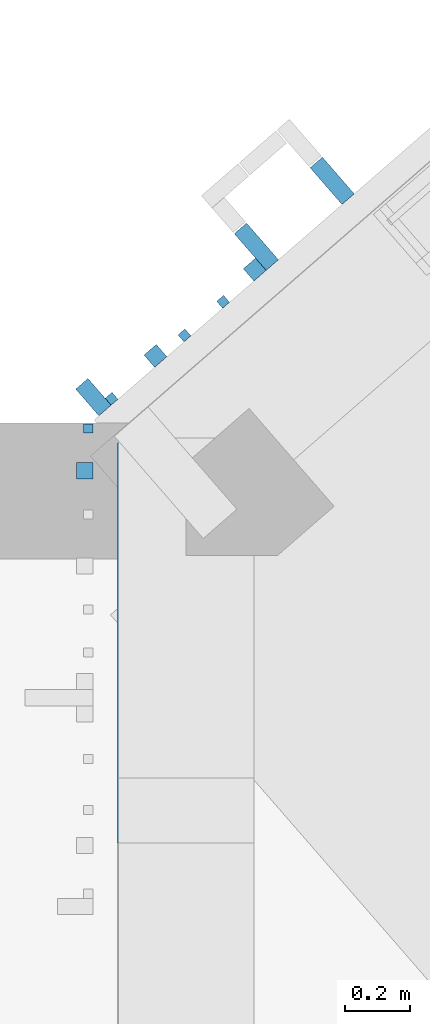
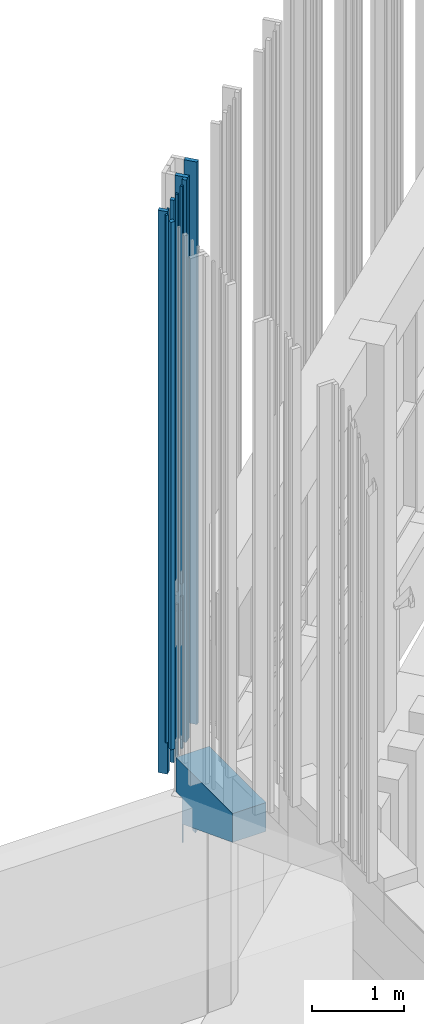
# One storey, part 131 of 390: 11 walls.
"""IFC2X3 building model written with IfcOpenShell, lengths in millimetres."""

import ifcopenshell
import ifcopenshell.guid

model = None  # the IFC model being written
_history = None  # IfcOwnerHistory: only IFC2X3 demands one
_inside = {}  # id of a spatial element -> (the spatial element, [elements in it])
_under = {}  # id of a project, library or spatial element -> (it, [spatial elements below it])
_declared = {}  # id of a project -> (the project, [libraries it declares])
_typed = {}  # id of a type object -> (the type object, [elements of that type])
_made_of = {}  # id of a material, layer set ... -> (it, [elements and type objects made of it])


def new_model(schema):
    """Start an empty IFC model of exactly this schema.

    Asked for "IFC4X3", IfcOpenShell would pick the latest addendum, in which some entities
    have other attributes; the version numbers below select the first issue.
    IFC2X3 requires an IfcOwnerHistory on every rooted entity: one is made here for all.
    """
    global model, _history
    if schema == "IFC4X3":
        model = ifcopenshell.file(schema_version=(4, 3, 0, 0))
    else:
        model = ifcopenshell.file(schema=schema)
    _inside.clear()
    _under.clear()
    _declared.clear()
    _typed.clear()
    _made_of.clear()
    _history = None
    if model.schema == "IFC2X3":
        org = make("IfcOrganization", Name="unknown")
        user = make(
            "IfcPersonAndOrganization",
            ThePerson=make("IfcPerson", FamilyName="unknown"),
            TheOrganization=org,
        )
        app = make(
            "IfcApplication",
            ApplicationDeveloper=org,
            Version="unknown",
            ApplicationFullName="unknown",
            ApplicationIdentifier="unknown",
        )
        _history = make(
            "IfcOwnerHistory",
            OwningUser=user,
            OwningApplication=app,
            ChangeAction="ADDED",
            CreationDate=0,
        )
    return model


def make(cls, **values):
    """One entity of the class cls with the attributes given. An attribute that is None is left unset."""
    return model.create_entity(
        cls, **{name: value for name, value in values.items() if value is not None}
    )


def entity(cls, *values):
    """Any entity or typed value of the class cls, its attributes in the order of the schema. None: left unset."""
    e = model.create_entity(cls)
    for i, value in enumerate(values):
        if value is not None:
            e[i] = value
    return e


def rooted(cls, **values):
    """An entity with a GlobalId (a new one), such as an element, a storey or a relation."""
    return make(cls, GlobalId=ifcopenshell.guid.new(), OwnerHistory=_history, **values)


def si_unit(unit_type, name, prefix=None):
    """IfcSIUnit, for example si_unit("LENGTHUNIT", "METRE", prefix="MILLI")."""
    return make("IfcSIUnit", UnitType=unit_type, Prefix=prefix, Name=name)


def converted_unit(unit_type, name, factor, base, dimensions=None, offset=None):
    """IfcConversionBasedUnit, such as the inch: factor (a typed value) times the base unit."""
    return make(
        "IfcConversionBasedUnit"
        if offset is None
        else "IfcConversionBasedUnitWithOffset",
        ConversionOffset=offset,
        Dimensions=None
        if dimensions is None
        else entity("IfcDimensionalExponents", *dimensions),
        UnitType=unit_type,
        Name=name,
        ConversionFactor=make(
            "IfcMeasureWithUnit", ValueComponent=factor, UnitComponent=base
        ),
    )


def derived_unit(unit_type, elements):
    """IfcDerivedUnit: a product of units, each with its exponent."""
    return make(
        "IfcDerivedUnit",
        Elements=[
            make("IfcDerivedUnitElement", Unit=unit, Exponent=power)
            for unit, power in elements
        ],
        UnitType=unit_type,
    )


def money_unit(currency):
    """IfcMonetaryUnit."""
    return make("IfcMonetaryUnit", Currency=currency)


def assignment(units):
    """IfcUnitAssignment: the units of a project."""
    return None if units is None else make("IfcUnitAssignment", Units=units)


def point(xyz):
    """IfcCartesianPoint."""
    return None if xyz is None else make("IfcCartesianPoint", Coordinates=xyz)


def direction(xyz):
    """IfcDirection."""
    return None if xyz is None else make("IfcDirection", DirectionRatios=xyz)


def frame(location, z_axis=None, x_axis=None):
    """IfcAxis2Placement3D, a coordinate frame: its origin and axes. An axis left out is left unset."""
    return make(
        "IfcAxis2Placement3D",
        Location=point(location),
        Axis=direction(z_axis),
        RefDirection=direction(x_axis),
    )


def origin_with_axes():
    """The frame at (0, 0, 0) with the z axis (0, 0, 1) and the x axis (1, 0, 0) written out."""
    return frame((0.0, 0.0, 0.0), z_axis=(0.0, 0.0, 1.0), x_axis=(1.0, 0.0, 0.0))


def place(relative_to, where):
    """IfcLocalPlacement: puts the frame where relative to a parent placement (None: the world)."""
    return make(
        "IfcLocalPlacement", PlacementRelTo=relative_to, RelativePlacement=where
    )


def context(
    kind, dimensions, precision=None, world=None, true_north=None, identifier=None
):
    """IfcGeometricRepresentationContext, for example the 3D "Model" context."""
    return make(
        "IfcGeometricRepresentationContext",
        ContextIdentifier=identifier,
        ContextType=kind,
        CoordinateSpaceDimension=dimensions,
        Precision=precision,
        WorldCoordinateSystem=world,
        TrueNorth=true_north,
    )


def subcontext(parent, identifier, kind, view, scale=None):
    """IfcGeometricRepresentationSubContext, for example "Body" below "Model"."""
    return make(
        "IfcGeometricRepresentationSubContext",
        ContextIdentifier=identifier,
        ContextType=kind,
        ParentContext=parent,
        TargetScale=scale,
        TargetView=view,
    )


def project(units=None, contexts=None):
    """IfcProject with its units and contexts."""
    return rooted(
        "IfcProject",
        Name="project",
        RepresentationContexts=contexts,
        UnitsInContext=assignment(units),
    )


def spatial(cls, under=None, at=None, **own):
    """A site, building, storey or space (cls), placed at a placement, below another one or the project."""
    s = rooted(cls, ObjectPlacement=at, **own)
    if under is not None:
        _under.setdefault(under.id(), (under, []))[1].append(s)
    return s


def faces_of(points, faces, orient=None, outer=None):
    """IfcFace entities. A face is a list of loops; a loop is a list of indices into points, from 0.

    orient and outer hold one flag for each loop. By default every Orientation is true, the
    first loop of a face is its IfcFaceOuterBound and the others are IfcFaceBound.
    """
    made = []
    for i, loops in enumerate(faces):
        bounds = []
        for j, loop in enumerate(loops):
            is_outer = j == 0 if outer is None else outer[i][j]
            bounds.append(
                make(
                    "IfcFaceOuterBound" if is_outer else "IfcFaceBound",
                    Bound=make("IfcPolyLoop", Polygon=[points[k] for k in loop]),
                    Orientation=True if orient is None else orient[i][j],
                )
            )
        made.append(make("IfcFace", Bounds=bounds))
    return made


def faceted_brep(points, faces, orient=None, outer=None, voids=None):
    """IfcFacetedBrep: a solid bounded by flat faces; with voids (closed shells), ...WithVoids."""
    shared = [point(p) for p in points]
    hull = make("IfcClosedShell", CfsFaces=faces_of(shared, faces, orient, outer))
    if voids is None:
        return make("IfcFacetedBrep", Outer=hull)
    return make(
        "IfcFacetedBrepWithVoids",
        Outer=hull,
        Voids=[
            make(cls, CfsFaces=faces_of(shared, fs, o, b)) for cls, fs, o, b in voids
        ],
    )


def shape(context_of_items, identifier, shape_type, items):
    """IfcShapeRepresentation: the items that make up one representation, for example the "Body"."""
    return make(
        "IfcShapeRepresentation",
        ContextOfItems=context_of_items,
        RepresentationIdentifier=identifier,
        RepresentationType=shape_type,
        Items=items,
    )


def material(Name=None, Category=None):
    """IfcMaterial."""
    return make("IfcMaterial", Name=Name, Category=Category)


def material_list(materials):
    """IfcMaterialList."""
    return make("IfcMaterialList", Materials=materials)


def made_of(thing, what):
    """Note that an element or type object is made of a material, layer set ...; save() writes the relation."""
    if what is not None:
        _made_of.setdefault(what.id(), (what, []))[1].append(thing)
    return thing


def type_object(cls, material=None, **own):
    """A type object (cls), such as IfcWallType, which elements share."""
    return made_of(rooted(cls, **own), material)


def element(
    cls,
    number,
    at=None,
    inside=None,
    cuts=None,
    type_object=None,
    material=None,
    context=None,
    identifier="Body",
    shape_type=None,
    held_by="IfcProductDefinitionShape",
    body=None,
    shapes=None,
    **own,
):
    """One element of the class cls, such as IfcWall. Its Tag is "e" and its number.

    at: its placement. inside: the storey or other place that contains it. cuts: it is an
    opening in that element (IfcRelVoidsElement). A single representation is given by context,
    identifier, shape_type and body (its items); several are given by shapes. held_by: the class
    of the entity that holds the representations. save() writes the other relations.
    """
    e = rooted(cls, Tag="e%d" % number, ObjectPlacement=at, **own)
    if body is not None:
        shapes = [shape(context, identifier, shape_type, body)]
    if shapes is not None:
        e.Representation = make(held_by, Representations=shapes)
    if inside is not None:
        _inside.setdefault(inside.id(), (inside, []))[1].append(e)
    if cuts is not None:
        rooted(
            "IfcRelVoidsElement", RelatingBuildingElement=cuts, RelatedOpeningElement=e
        )
    if type_object is not None:
        _typed.setdefault(type_object.id(), (type_object, []))[1].append(e)
    return made_of(e, material)


def aggregate(whole, parts):
    """IfcRelAggregates: a whole, such as a stair, and the parts it consists of."""
    return rooted("IfcRelAggregates", RelatingObject=whole, RelatedObjects=parts)


def save(model, path):
    """Write the relations noted so far, then the file.

    IfcRelAggregates (storeys below a building ...), IfcRelContainedInSpatialStructure (elements
    in a storey), IfcRelDefinesByType, IfcRelAssociatesMaterial and IfcRelDeclares: one each for
    every whole, place, type object, material and project.
    """
    for whole, parts in _under.values():
        aggregate(whole, parts)
    for where, things in _inside.values():
        rooted(
            "IfcRelContainedInSpatialStructure",
            RelatedElements=things,
            RelatingStructure=where,
        )
    for kind, things in _typed.values():
        rooted("IfcRelDefinesByType", RelatedObjects=things, RelatingType=kind)
    for what, things in _made_of.values():
        rooted("IfcRelAssociatesMaterial", RelatedObjects=things, RelatingMaterial=what)
    for by, libraries in _declared.values():
        rooted("IfcRelDeclares", RelatingContext=by, RelatedDefinitions=libraries)
    model.write(path)


model = new_model("IFC2X3")

# Units and contexts
model_context = context("Model", 3, precision=1e-05, world=origin_with_axes(), true_north=direction((0.0, 1.0)))
body_context = subcontext(model_context, "Body", "Model", "MODEL_VIEW")
ifc_project = project(units=[si_unit("LENGTHUNIT", "METRE", prefix="MILLI"), si_unit("AREAUNIT", "SQUARE_METRE"), si_unit("VOLUMEUNIT", "CUBIC_METRE"), converted_unit("PLANEANGLEUNIT", "DEGREE", entity("IfcPlaneAngleMeasure", 0.0174532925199), si_unit("PLANEANGLEUNIT", "RADIAN"), dimensions=[0, 0, 0, 0, 0, 0, 0]), si_unit("SOLIDANGLEUNIT", "STERADIAN"), money_unit("EUR"), converted_unit("TIMEUNIT", "Year", entity("IfcTimeMeasure", 31556926.0), si_unit("TIMEUNIT", "SECOND"), dimensions=[0, 0, 1, 0, 0, 0, 0]), si_unit("MASSUNIT", "GRAM", prefix="KILO"), si_unit("THERMODYNAMICTEMPERATUREUNIT", "DEGREE_CELSIUS"), si_unit("LUMINOUSINTENSITYUNIT", "LUMEN"), si_unit("ENERGYUNIT", "JOULE", prefix="MEGA"), derived_unit("THERMALCONDUCTANCEUNIT", [(si_unit("POWERUNIT", "WATT"), 1), (si_unit("LENGTHUNIT", "METRE"), -1), (si_unit("THERMODYNAMICTEMPERATUREUNIT", "KELVIN"), -1)]), derived_unit("SPECIFICHEATCAPACITYUNIT", [(si_unit("ENERGYUNIT", "JOULE"), 1), (si_unit("MASSUNIT", "GRAM", prefix="KILO"), -1), (si_unit("THERMODYNAMICTEMPERATUREUNIT", "KELVIN"), -1)]), derived_unit("MASSDENSITYUNIT", [(si_unit("MASSUNIT", "GRAM", prefix="KILO"), 1), (si_unit("VOLUMEUNIT", "CUBIC_METRE"), -1)])], contexts=[model_context])

# Site, building, storey
site_placement = place(None, origin_with_axes())
site = spatial("IfcSite", under=ifc_project, at=site_placement, Name="Site", CompositionType="ELEMENT")
building_placement = place(site_placement, origin_with_axes())
building = spatial("IfcBuilding", under=site, at=building_placement, Name="Building", CompositionType="ELEMENT")
storey_placement = place(building_placement, origin_with_axes())
storey = spatial("IfcBuildingStorey", under=building, at=storey_placement, Name="1 korrus", CompositionType="ELEMENT", Elevation=0.0)

# Walls
ifc_material_1 = material(Name="Membraan - Veekindel")
ifc_material_2 = material(Name="Soojustus - Plastik Kõva")
ifc_material_3 = material(Name="Raudbetoon - Konstruktsioon")
ifc_material_4 = material(Name="Krohv - Lubjakivi")
ifc_material_list_1 = material_list([ifc_material_1, ifc_material_1, ifc_material_2, ifc_material_2, ifc_material_3, ifc_material_4])
wall_type_1 = type_object("IfcWallType", Name="VS-04", PredefinedType="NOTDEFINED")
wall_1_placement = place(storey_placement, frame((122910.0, 75113.9918313, 1619.91713358), z_axis=(0.0, 0.0, 1.0), x_axis=(0.0, 1.0, 0.0)))
element("IfcWall", 1, at=wall_1_placement, inside=storey, type_object=wall_type_1, material=ifc_material_list_1, Name="VS-03", context=body_context, shape_type="Brep", body=[
    faceted_brep([(1086.00818092, 415.000000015, 246.233859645), (1086.00818092, 415.000000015, 0.0), (1091.03502559, 415.000000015, 0.0), (1091.03502559, 415.000000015, 590.082866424), (1233.24587592, 415.000000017, 590.082866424), (1233.24587592, 415.000000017, 1045.08286642), (-5.55644419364e-09, 415.0, 1045.08286642), (-5.55644419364e-09, 415.0, 664.307896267), (1086.00818092, 420.000000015, 246.233859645), (1086.00818092, 420.000000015, 0.0), (1096.78686745, 420.000000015, 0.0), (1096.78686745, 420.000000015, 590.082866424), (1233.24587592, 420.000000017, 590.082866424), (1233.24587592, 420.000000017, 1045.08286642), (-5.62749846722e-09, 420.0, 1045.08286642), (-5.62749846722e-09, 420.0, 664.307896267)], [[[0, 1, 2, 3, 4, 5, 6, 7]], [[1, 0, 8, 9]], [[1, 9, 10, 2]], [[11, 3, 2, 10]], [[11, 12, 4, 3]], [[5, 4, 12, 13]], [[14, 6, 5, 13]], [[15, 7, 6, 14]], [[0, 7, 15, 8]], [[8, 15, 14, 13, 12, 11, 10, 9]]]),
    faceted_brep([(-5.49960077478e-09, 410.0, 664.307896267), (1085.28318374, 410.000000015, 246.51295745), (1085.28318374, 410.000000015, 590.082866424), (1233.24587592, 410.000000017, 590.082866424), (1233.24587592, 410.000000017, 1045.08286642), (-5.49960077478e-09, 410.0, 1045.08286642), (1086.00818092, 410.630230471, 246.233859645), (-5.55644419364e-09, 415.0, 664.307896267), (1086.00818092, 415.000000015, 246.233859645), (1086.00818092, 410.630230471, 0.0), (1091.03502559, 415.000000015, 0.0), (1091.03502559, 415.000000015, 590.082866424), (1233.24587592, 415.000000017, 590.082866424), (1233.24587592, 415.000000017, 1045.08286642), (-5.55644419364e-09, 415.0, 1045.08286642), (1086.00818092, 415.000000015, 0.0)], [[[0, 1, 2, 3, 4, 5]], [[6, 1, 0, 7, 8]], [[6, 9, 10, 11, 2, 1]], [[11, 12, 3, 2]], [[4, 3, 12, 13]], [[14, 5, 4, 13]], [[7, 0, 5, 14]], [[8, 7, 14, 13, 12, 11, 10, 15]], [[9, 6, 8, 15]], [[9, 15, 10]]]),
    faceted_brep([(-4.81747974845e-09, 360.0, 664.307896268), (1027.7647652, 360.000000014, 268.65547704), (1027.7647652, 360.000000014, 590.082866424), (1233.24587592, 360.000000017, 590.082866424), (1233.24587592, 360.000000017, 1045.08286642), (-4.81747974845e-09, 360.0, 1045.08286642), (1085.28318374, 410.000000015, 246.51295745), (-5.49960077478e-09, 410.0, 664.307896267), (1085.28318374, 410.000000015, 590.082866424), (1233.24587592, 410.000000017, 590.082866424), (1233.24587592, 410.000000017, 1045.08286642), (-5.49960077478e-09, 410.0, 1045.08286642)], [[[0, 1, 2, 3, 4, 5]], [[6, 1, 0, 7]], [[1, 6, 8, 2]], [[2, 8, 9, 3]], [[3, 9, 10, 4]], [[11, 5, 4, 10]], [[7, 0, 5, 11]], [[6, 7, 11, 10, 9, 8]]]),
    faceted_brep([(-2.81374923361e-09, 210.0, 664.307896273), (905.499996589, 210.000000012, 315.723009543), (905.499996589, 210.000000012, 590.082866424), (1233.24587592, 210.000000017, 590.082866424), (1233.24587592, 210.000000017, 1045.08286642), (-2.81374923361e-09, 210.0, 1045.08286642), (883.854293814, 234.900531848, 324.055825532), (-4.81747974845e-09, 360.0, 664.307896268), (1027.7647652, 360.000000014, 268.65547704), (883.854293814, 234.900531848, 590.082866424), (1027.7647652, 360.000000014, 590.082866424), (1233.24587592, 360.000000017, 590.082866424), (1233.24587592, 360.000000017, 1045.08286642), (-4.81747974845e-09, 360.0, 1045.08286642)], [[[0, 1, 2, 3, 4, 5]], [[6, 1, 0, 7, 8]], [[1, 6, 9, 2]], [[10, 11, 3, 2, 9]], [[4, 3, 11, 12]], [[13, 5, 4, 12]], [[7, 0, 5, 13]], [[8, 7, 13, 12, 11, 10]], [[6, 8, 10, 9]]]),
    faceted_brep([(-1.27897692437e-10, 10.0, 664.307896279), (1079.35734965, 10.0000000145, 248.794190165), (1079.35734965, 10.0000000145, 590.082866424), (1233.24587592, 10.0000000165, 590.082866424), (1233.24587592, 10.0000000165, 1045.08286642), (-1.27897692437e-10, 10.0, 1045.08286642), (905.499996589, 210.000000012, 315.723009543), (-2.81374923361e-09, 210.0, 664.307896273), (905.499996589, 210.000000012, 590.082866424), (1170.50259887, 210.000000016, 590.082866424), (1233.24587592, 137.822118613, 590.082866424), (1233.24587592, 137.822118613, 0.0), (1233.24587592, 210.000000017, 0.0), (1233.24587592, 210.000000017, 1045.08286642), (-2.81374923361e-09, 210.0, 1045.08286642), (1170.50259887, 210.000000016, 0.0)], [[[0, 1, 2, 3, 4, 5]], [[6, 1, 0, 7]], [[1, 6, 8, 2]], [[9, 10, 3, 2, 8]], [[3, 10, 11, 12, 13, 4]], [[14, 5, 4, 13]], [[7, 0, 5, 14]], [[6, 7, 14, 13, 12, 15, 9, 8]], [[15, 11, 10, 9]], [[12, 11, 15]]]),
    faceted_brep([(0.0, 0.0, 664.307896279), (1074.80008719, 1.44098066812e-08, 250.548572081), (1074.80008719, 1.44098066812e-08, 590.082866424), (1233.24587592, 1.65272240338e-08, 590.082866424), (1233.24587592, 1.65272240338e-08, 1045.08286642), (0.0, 0.0, 1045.08286642), (1066.10721954, 10.0000000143, 253.89501305), (-1.27897692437e-10, 10.0, 664.307896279), (1066.10721954, 10.0000000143, 590.082866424), (1233.24587592, 10.0000000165, 590.082866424), (1233.24587592, 10.0000000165, 1045.08286642), (-1.27897692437e-10, 10.0, 1045.08286642)], [[[0, 1, 2, 3, 4, 5]], [[6, 1, 0, 7]], [[1, 6, 8, 2]], [[9, 3, 2, 8]], [[4, 3, 9, 10]], [[11, 5, 4, 10]], [[7, 0, 5, 11]], [[6, 7, 11, 10, 9, 8]]]),
])
ifc_material_5 = material(Name="Site specified")
ifc_material_list_2 = material_list([ifc_material_5, ifc_material_5])
wall_type_2 = type_object("IfcWallType", Name="Puitfassaadi ribistik", PredefinedType="NOTDEFINED")
wall_2_placement = place(storey_placement, frame((122815.157787, 76783.4285097, 2409.0), z_axis=(0.0, 0.0, 1.0), x_axis=(0.754709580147, 0.656059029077, 0.0)))
element("IfcWall", 2, at=wall_2_placement, inside=storey, type_object=wall_type_2, material=ifc_material_list_2, Name="Site specified", context=body_context, shape_type="Brep", body=[
    faceted_brep([(14.0, 14.0, 0.0), (14.0, 14.0, 2015.99966101), (14.0, -14.0, 2015.99966101), (14.0, -14.0, 0.0), (-14.0, 14.0, 0.0), (-14.0, 14.0, 2015.99966101), (-14.0, -14.0, 2015.99966101), (-14.0, -14.0, 0.0)], [[[0, 1, 2, 3]], [[4, 5, 1, 0]], [[5, 6, 2, 1]], [[3, 2, 6, 7]], [[7, 4, 0, 3]], [[7, 6, 5, 4]]]),
    faceted_brep([(-14.0, -14.0, 7456.0), (-14.0, -13.9999846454, 2185.99999782), (14.0, -13.9999846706, 2185.99999782), (14.0, -14.0, 7456.0), (-14.0, 14.0, 7456.0), (-14.0, 14.0, 2185.99999782), (14.0, 14.0, 2185.99999782), (14.0, 14.0, 7456.0)], [[[0, 1, 2, 3]], [[4, 5, 1, 0]], [[5, 6, 2, 1]], [[3, 2, 6, 7]], [[0, 3, 7, 4]], [[7, 6, 5, 4]]]),
])
wall_3_placement = place(storey_placement, frame((122415.006153, 76489.2450295, 2409.0), z_axis=(0.0, 0.0, 1.0), x_axis=(0.754709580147, 0.656059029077, 0.0)))
element("IfcWall", 3, at=wall_3_placement, inside=storey, type_object=wall_type_2, material=ifc_material_5, Name="Site specified", context=body_context, shape_type="Brep", body=[
    faceted_brep([(25.0, -54.5, 7456.0), (25.0, -54.4999857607, 2185.99999782), (25.0, 31.8170984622, 2185.99999782), (25.0, 31.8170984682, 2015.99966089), (25.0, -54.5, 2015.99965207), (25.0, -54.5, 0.0), (25.0, 54.5, 0.0), (25.0, 54.5, 7456.0), (-25.0, -54.4999857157, 2185.99999782), (-25.0, -54.5, 7456.0), (-25.0, -25.7013218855, 2185.99999782), (-25.0, -25.7013218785, 2015.99966087), (-25.0, -54.5, 2015.99965207), (-25.0, -54.5, 0.0), (-25.0, 54.5, 0.0), (-25.0, 54.5, 7456.0)], [[[0, 1, 2, 3, 4, 5, 6, 7]], [[8, 1, 0, 9]], [[2, 1, 8, 10]], [[11, 3, 2, 10]], [[12, 4, 3, 11]], [[5, 4, 12, 13]], [[13, 14, 6, 5]], [[15, 7, 6, 14]], [[9, 0, 7, 15]], [[11, 10, 8, 9, 15, 14, 13, 12]]]),
])
wall_4_placement = place(storey_placement, frame((122387.999994, 76262.0000101, 2871.0), z_axis=(0.0, 0.0, 1.0), x_axis=(0.0, 1.0, 0.0)))
element("IfcWall", 4, at=wall_4_placement, inside=storey, type_object=wall_type_2, material=ifc_material_5, Name="Site specified", context=body_context, shape_type="Brep", body=[
    faceted_brep([(-25.0, 25.0, 6994.0), (25.0, 25.0, 6994.0), (25.0, 25.0, 0.0), (-25.0, 25.0, 0.0), (-25.0, -25.0, 6994.0), (25.0, -25.0, 6994.0), (25.0, -25.0, 0.0), (-25.0, -25.0, 0.0)], [[[0, 1, 2, 3]], [[4, 5, 1, 0]], [[1, 5, 6, 2]], [[7, 3, 2, 6]], [[4, 0, 3, 7]], [[5, 4, 7, 6]]]),
])
wall_5_placement = place(storey_placement, frame((122471.010217, 76484.2655936, 2409.0), z_axis=(0.0, 0.0, 1.0), x_axis=(0.754709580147, 0.656059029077, 0.0)))
element("IfcWall", 5, at=wall_5_placement, inside=storey, type_object=wall_type_2, material=ifc_material_list_2, Name="Site specified", context=body_context, shape_type="Brep", body=[
    faceted_brep([(14.0, 14.0, 0.0), (14.0, 14.0, 2015.99965207), (14.0, -14.0, 2015.99965207), (14.0, -14.0, 0.0), (-14.0, 14.0, 2015.99965207), (-14.0, 14.0, 0.0), (-14.0, -14.0, 2015.99965207), (-14.0, -14.0, 0.0)], [[[0, 1, 2, 3]], [[4, 1, 0, 5]], [[4, 6, 2, 1]], [[3, 2, 6, 7]], [[7, 5, 0, 3]], [[7, 6, 4, 5]]]),
    faceted_brep([(-14.0, -14.0, 7456.0), (-14.0, -13.9999857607, 2185.99999782), (14.0, -13.9999857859, 2185.99999782), (14.0, -14.0, 7456.0), (-14.0, 14.0, 2185.99999782), (-14.0, 14.0, 7456.0), (14.0, 14.0, 2185.99999782), (14.0, 14.0, 7456.0)], [[[0, 1, 2, 3]], [[4, 1, 0, 5]], [[4, 6, 2, 1]], [[3, 2, 6, 7]], [[0, 3, 7, 5]], [[7, 6, 4, 5]]]),
])
wall_6_placement = place(storey_placement, frame((122606.43368, 76616.5625543, 2409.0), z_axis=(0.0, 0.0, 1.0), x_axis=(0.754709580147, 0.656059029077, 0.0)))
element("IfcWall", 6, at=wall_6_placement, inside=storey, type_object=wall_type_2, material=ifc_material_list_2, Name="Site specified", context=body_context, shape_type="Brep", body=[
    faceted_brep([(25.0, 25.0, 0.0), (25.0, 25.0, 2015.99965207), (25.0, -25.0, 2015.99965207), (25.0, -25.0, 0.0), (-25.0, 25.0, 0.0), (-25.0, 25.0, 2015.99965207), (-25.0, -25.0, 2015.99965207), (-25.0, -25.0, 0.0)], [[[0, 1, 2, 3]], [[4, 5, 1, 0]], [[5, 6, 2, 1]], [[3, 2, 6, 7]], [[7, 4, 0, 3]], [[7, 6, 5, 4]]]),
    faceted_brep([(-25.0, -25.0, 7456.0), (-25.0, -24.9999843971, 2185.99999782), (25.0, -24.9999844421, 2185.99999782), (25.0, -25.0, 7456.0), (-25.0, 25.0, 7456.0), (-25.0, 25.0, 2185.99999782), (25.0, 25.0, 2185.99999782), (25.0, 25.0, 7456.0)], [[[0, 1, 2, 3]], [[4, 5, 1, 0]], [[5, 6, 2, 1]], [[3, 2, 6, 7]], [[0, 3, 7, 4]], [[7, 6, 5, 4]]]),
])
wall_7_placement = place(storey_placement, frame((122695.913673, 76679.7711831, 2409.0), z_axis=(0.0, 0.0, 1.0), x_axis=(0.754709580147, 0.656059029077, 0.0)))
element("IfcWall", 7, at=wall_7_placement, inside=storey, type_object=wall_type_2, material=ifc_material_list_2, Name="Site specified", context=body_context, shape_type="Brep", body=[
    faceted_brep([(14.0, 14.0, 2015.99965207), (14.0, -14.0, 2015.99966101), (14.0, -14.0, 0.0), (14.0, 14.0, 0.0), (-14.0, -14.0, 2015.99965207), (-14.0, 14.0, 2015.99965207), (-14.0, -14.0, 0.0), (-14.0, 14.0, 0.0)], [[[0, 1, 2, 3]], [[4, 1, 0, 5]], [[2, 1, 4, 6]], [[6, 7, 3, 2]], [[7, 5, 0, 3]], [[6, 4, 5, 7]]]),
    faceted_brep([(-14.0, -13.9999845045, 2185.99999782), (14.0, -13.9999845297, 2185.99999782), (14.0, -14.0, 7456.0), (-14.0, -14.0, 7456.0), (14.0, 14.0, 2185.99999782), (-14.0, 14.0, 2185.99999782), (14.0, 14.0, 7456.0), (-14.0, 14.0, 7456.0)], [[[0, 1, 2, 3]], [[4, 1, 0, 5]], [[2, 1, 4, 6]], [[3, 2, 6, 7]], [[7, 5, 0, 3]], [[6, 4, 5, 7]]]),
])
wall_8_placement = place(storey_placement, frame((122912.845769, 76882.9225202, 2409.0), z_axis=(0.0, 0.0, 1.0), x_axis=(0.754709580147, 0.656059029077, 0.0)))
element("IfcWall", 8, at=wall_8_placement, inside=storey, type_object=wall_type_2, material=ifc_material_5, Name="Site specified", context=body_context, shape_type="Brep", body=[
    faceted_brep([(25.0, 25.0, 7456.0), (25.0, 25.0, 0.0), (-25.0, 25.0, 0.0), (-25.0, 25.0, 7456.0), (25.0, -25.0, 7456.0), (25.0, -25.0, 0.0), (-25.0, -25.0, 0.0), (-25.0, -25.0, 7456.0)], [[[0, 1, 2, 3]], [[4, 5, 1, 0]], [[2, 1, 5, 6]], [[3, 2, 6, 7]], [[4, 0, 3, 7]], [[7, 6, 5, 4]]]),
])
wall_9_placement = place(storey_placement, frame((122398.999994, 76392.8191761, 2871.0), z_axis=(0.0, 0.0, 1.0), x_axis=(0.0, 1.0, 0.0)))
element("IfcWall", 9, at=wall_9_placement, inside=storey, type_object=wall_type_2, material=ifc_material_5, Name="Site specified", context=body_context, shape_type="Brep", body=[
    faceted_brep([(-14.0, 14.0, 6994.0), (14.0, 14.0, 6994.0), (14.0, 14.0, 0.0), (-14.0, 14.0, 0.0), (-14.0, -14.0, 6994.0), (14.0, -14.0, 6994.0), (14.0, -14.0, 0.0), (-14.0, -14.0, 0.0)], [[[0, 1, 2, 3]], [[4, 5, 1, 0]], [[1, 5, 6, 2]], [[7, 3, 2, 6]], [[4, 0, 3, 7]], [[5, 4, 7, 6]]]),
])
wall_type_3 = type_object("IfcWallType", Name="Puitfassaadi ribisik", PredefinedType="NOTDEFINED")
for number, where, z_axis, x_axis, name in (
    (10, (123151.738246, 77156.8393232, 2409.0), (0.0, 0.0, 1.0), (0.754709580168, 0.656059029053, 0.0), "Site specified"),
    (11, (122917.778297, 76953.4609506, 2409.0), (0.0, 0.0, 1.0), (0.754709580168, 0.656059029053, 0.0), "Site specified"),
):
    element("IfcWall", number, at=place(storey_placement, frame(where, z_axis=z_axis, x_axis=x_axis)), inside=storey, type_object=wall_type_3, material=ifc_material_5, Name=name, context=body_context, shape_type="Brep", body=[
        faceted_brep([(-25.0, -75.0, 7456.0), (-25.0, -75.0, 0.0), (25.0, -75.0, 0.0), (25.0, -75.0, 7456.0), (-25.0, 75.0, 7456.0), (-25.0, 75.0, 0.0), (25.0, 75.0, 0.0), (25.0, 75.0, 7456.0)], [[[0, 1, 2, 3]], [[4, 5, 1, 0]], [[2, 1, 5, 6]], [[3, 2, 6, 7]], [[4, 0, 3, 7]], [[7, 6, 5, 4]]]),
    ])

save(model, "model.ifc")
